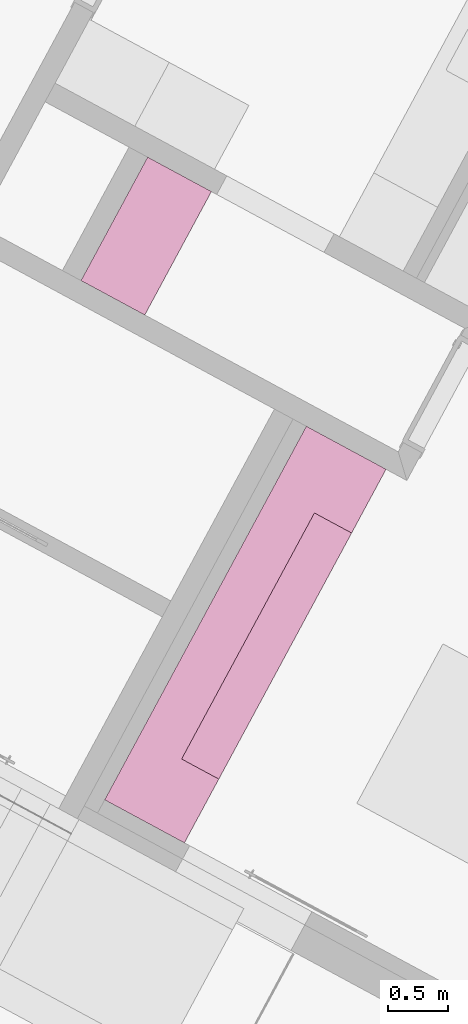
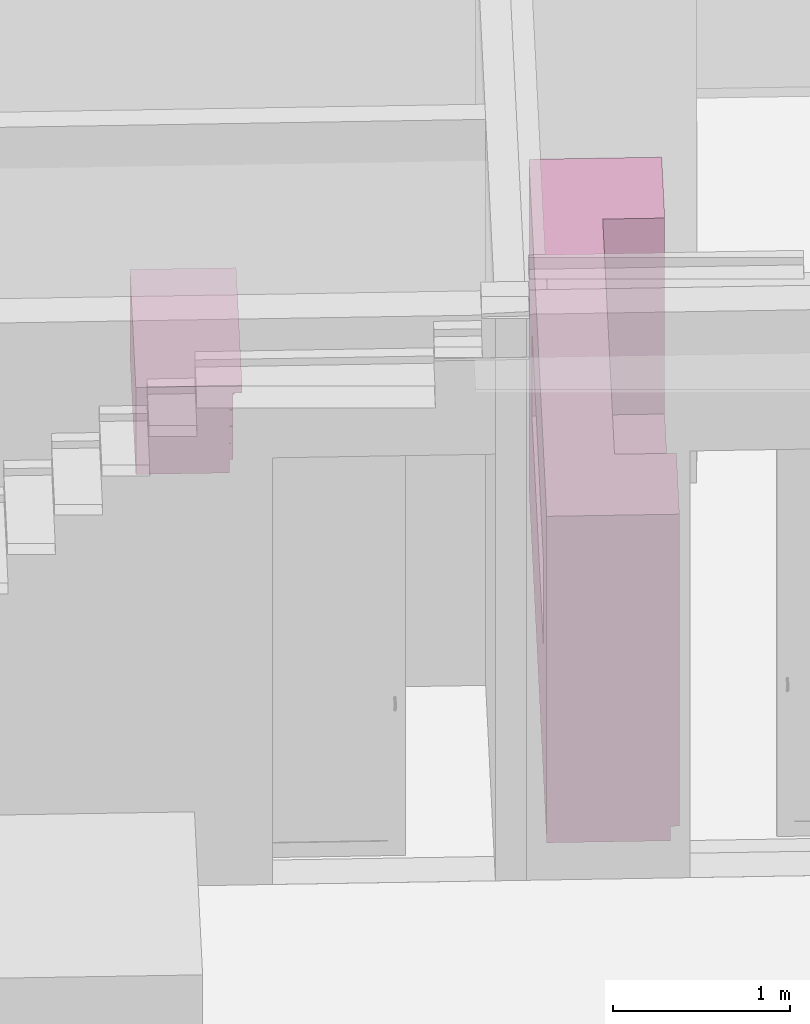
# One storey, part 33 of 36: 2 furnishings.
"""IFC2X3 building model written with IfcOpenShell, lengths in metres."""

from ifc_helpers import new_model, entity, si_unit, converted_unit, derived_unit, money_unit, direction, frame, origin_with_axes, place, context, subcontext, project, spatial, faceted_brep, type_object, element, save


model = new_model("IFC2X3")

# Units and contexts
model_context = context("Model", 3, precision=1e-05, world=origin_with_axes(), true_north=direction((0.0, 1.0)))
body_context = subcontext(model_context, "Body", "Model", "MODEL_VIEW")
ifc_project = project(units=[si_unit("LENGTHUNIT", "METRE"), si_unit("AREAUNIT", "SQUARE_METRE"), si_unit("VOLUMEUNIT", "CUBIC_METRE"), converted_unit("PLANEANGLEUNIT", "DEGREE", entity("IfcPlaneAngleMeasure", 0.0174532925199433), si_unit("PLANEANGLEUNIT", "RADIAN"), dimensions=[0, 0, 0, 0, 0, 0, 0]), money_unit("EUR"), converted_unit("TIMEUNIT", "Year", entity("IfcTimeMeasure", 31556926.0), si_unit("TIMEUNIT", "SECOND"), dimensions=[0, 0, 1, 0, 0, 0, 0]), si_unit("MASSUNIT", "GRAM", prefix="KILO"), si_unit("THERMODYNAMICTEMPERATUREUNIT", "DEGREE_CELSIUS"), si_unit("LUMINOUSINTENSITYUNIT", "LUMEN"), si_unit("ENERGYUNIT", "JOULE", prefix="MEGA"), derived_unit("THERMALCONDUCTANCEUNIT", [(si_unit("POWERUNIT", "WATT"), 1), (si_unit("LENGTHUNIT", "METRE"), -1), (si_unit("THERMODYNAMICTEMPERATUREUNIT", "KELVIN"), -1)]), derived_unit("SPECIFICHEATCAPACITYUNIT", [(si_unit("ENERGYUNIT", "JOULE"), 1), (si_unit("MASSUNIT", "GRAM", prefix="KILO"), -1), (si_unit("THERMODYNAMICTEMPERATUREUNIT", "KELVIN"), -1)]), derived_unit("MASSDENSITYUNIT", [(si_unit("MASSUNIT", "GRAM", prefix="KILO"), 1), (si_unit("VOLUMEUNIT", "CUBIC_METRE"), -1)])], contexts=[model_context])

# Site, building, storey
site_placement = place(None, frame((-3.949935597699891, 1.740105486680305, 0.0), z_axis=(0.0, 0.0, 1.0), x_axis=(0.8799804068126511, -0.475009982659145, 0.0)))
site = spatial("IfcSite", under=ifc_project, at=site_placement, Name="Gelände", CompositionType="ELEMENT")
building_placement = place(site_placement, origin_with_axes())
building = spatial("IfcBuilding", under=site, at=building_placement, Name="Gebäude", CompositionType="ELEMENT")
storey_placement = place(building_placement, origin_with_axes())
storey = spatial("IfcBuildingStorey", under=building, at=storey_placement, Name="Erdgeschoss", CompositionType="ELEMENT", Elevation=0.0)

# Furnishings
furniture_type_1 = type_object("IfcFurnitureType", Name="Konzeptküche 26", AssemblyPlace="NOTDEFINED")
furnishing_1_placement = place(storey_placement, frame((13.7174868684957, 14.09586423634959, 0.0), z_axis=(0.0, 0.0, 1.0), x_axis=(0.0, -1.0, 0.0)))
element("IfcFurnishingElement", 1, at=furnishing_1_placement, inside=storey, type_object=furniture_type_1, Name="Küche-001", ObjectType="FURNITURE", context=body_context, shape_type="Brep", body=[
    faceted_brep([(2.473029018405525, -3.067133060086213e-06, 0.1), (2.473026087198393, 0.6999969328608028, 0.1), (0.157757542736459, 0.6999872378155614, 0.1), (0.1577604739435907, -1.27621783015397e-05, 0.1), (2.473026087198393, 0.6999969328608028, 0.0), (2.473029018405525, -3.067133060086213e-06, 0.0), (0.157757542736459, 0.6999872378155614, 0.0), (0.1577604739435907, -1.27621783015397e-05, 0.0)], [[[0, 1, 2, 3]], [[4, 1, 0, 5]], [[1, 4, 6, 2]], [[2, 6, 7, 3]], [[5, 0, 3, 7]], [[4, 5, 7, 6]]]),
    faceted_brep([(2.473029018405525, -3.067133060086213e-06, 0.9), (2.473025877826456, 0.7499969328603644, 0.9), (0.1577573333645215, 0.7499872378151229, 0.9), (0.1577604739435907, -1.27621783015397e-05, 0.9), (2.473025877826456, 0.7499969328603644, 0.86), (2.473029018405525, -3.067133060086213e-06, 0.86), (0.1577573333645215, 0.7499872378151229, 0.86), (0.1577604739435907, -1.27621783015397e-05, 0.86)], [[[0, 1, 2, 3]], [[4, 1, 0, 5]], [[1, 4, 6, 2]], [[2, 6, 7, 3]], [[5, 0, 3, 7]], [[4, 5, 7, 6]]]),
    faceted_brep([(2.473029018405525, -3.067133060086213e-06, 0.86), (2.473025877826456, 0.7499969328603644, 0.86), (0.1577573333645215, 0.7499872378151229, 0.86), (0.1577604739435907, -1.27621783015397e-05, 0.86), (2.473025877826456, 0.7499969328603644, 0.09999999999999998), (2.473029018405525, -3.067133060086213e-06, 0.09999999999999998), (0.1577573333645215, 0.7499872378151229, 0.09999999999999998), (0.1577604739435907, -1.27621783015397e-05, 0.09999999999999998)], [[[0, 1, 2, 3]], [[4, 1, 0, 5]], [[1, 4, 6, 2]], [[2, 6, 7, 3]], [[5, 0, 3, 7]], [[4, 5, 7, 6]]]),
    faceted_brep([(1.773028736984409, -5.998341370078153e-06, 1.5), (2.473028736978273, -3.067134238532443e-06, 1.5), (2.473028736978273, -3.067134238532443e-06, 2.25), (1.773028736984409, -5.998341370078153e-06, 2.25), (1.773027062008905, 0.399994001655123, 1.5), (2.473027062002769, 0.3999969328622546, 1.5), (2.473027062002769, 0.3999969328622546, 2.25), (1.773027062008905, 0.399994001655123, 2.25)], [[[0, 1, 2, 3]], [[0, 4, 5, 1]], [[1, 5, 6, 2]], [[3, 2, 6, 7]], [[4, 0, 3, 7]], [[5, 4, 7, 6]]]),
    faceted_brep([(2.473028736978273, -3.067134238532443e-06, 1.5), (2.473027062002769, 0.3999969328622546, 1.5), (2.473027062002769, 0.3999969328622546, 2.25), (2.473028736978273, -3.067134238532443e-06, 2.25), (0.857760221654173, -9.830972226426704e-06, 1.5), (0.8577585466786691, 0.3999901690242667, 1.5), (0.8577585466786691, 0.3999901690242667, 2.25), (0.857760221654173, -9.830972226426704e-06, 2.25)], [[[0, 1, 2, 3]], [[0, 4, 5, 1]], [[1, 5, 6, 2]], [[3, 2, 6, 7]], [[4, 0, 3, 7]], [[5, 4, 7, 6]]]),
    faceted_brep([(0.8577602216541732, -9.830972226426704e-06, 1.5), (0.8577585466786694, 0.3999901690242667, 1.5), (0.8577585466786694, 0.3999901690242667, 2.25), (0.8577602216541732, -9.830972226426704e-06, 2.25), (0.1577602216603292, -1.276217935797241e-05, 1.5), (0.1577585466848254, 0.3999872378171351, 1.5), (0.1577585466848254, 0.3999872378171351, 2.25), (0.1577602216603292, -1.276217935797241e-05, 2.25)], [[[0, 1, 2, 3]], [[0, 4, 5, 1]], [[1, 5, 6, 2]], [[3, 2, 6, 7]], [[4, 0, 3, 7]], [[5, 4, 7, 6]]]),
    faceted_brep([(0.1577575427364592, 0.6999872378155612, 0.0), (-0.4422424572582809, 0.6999847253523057, 0.0), (-0.4422424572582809, 0.6999847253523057, 0.1), (0.1577575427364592, 0.6999872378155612, 0.1), (0.1577604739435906, -1.276217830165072e-05, 0.0), (-0.4422395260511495, -1.527464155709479e-05, 0.0), (-0.4422395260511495, -1.527464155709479e-05, 0.1), (0.1577604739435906, -1.276217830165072e-05, 0.1)], [[[0, 1, 2, 3]], [[0, 4, 5, 1]], [[1, 5, 6, 2]], [[3, 2, 6, 7]], [[4, 0, 3, 7]], [[5, 4, 7, 6]]]),
    faceted_brep([(0.1577573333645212, 0.7499872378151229, 0.1), (-0.4422426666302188, 0.7499847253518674, 0.1), (-0.4422426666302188, 0.7499847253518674, 2.25), (0.1577573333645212, 0.7499872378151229, 2.25), (0.1577604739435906, -1.276217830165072e-05, 0.1), (-0.4422395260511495, -1.527464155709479e-05, 0.1), (-0.4422395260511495, -1.527464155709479e-05, 2.25), (0.1577604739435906, -1.276217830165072e-05, 2.25)], [[[0, 1, 2, 3]], [[0, 4, 5, 1]], [[1, 5, 6, 2]], [[3, 2, 6, 7]], [[4, 0, 3, 7]], [[5, 4, 7, 6]]]),
    faceted_brep([(3.073026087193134, 0.6999994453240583, 0.0), (2.473026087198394, 0.6999969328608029, 0.0), (2.473026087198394, 0.6999969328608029, 0.1), (3.073026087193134, 0.6999994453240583, 0.1), (3.073029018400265, -5.54669804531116e-07, 0.0), (2.473029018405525, -3.067133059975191e-06, 0.0), (2.473029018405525, -3.067133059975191e-06, 0.1), (3.073029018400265, -5.54669804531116e-07, 0.1)], [[[0, 1, 2, 3]], [[0, 4, 5, 1]], [[1, 5, 6, 2]], [[3, 2, 6, 7]], [[4, 0, 3, 7]], [[5, 4, 7, 6]]]),
    faceted_brep([(3.073025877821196, 0.74999944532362, 0.1), (2.473025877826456, 0.7499969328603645, 0.1), (2.473025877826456, 0.7499969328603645, 2.25), (3.073025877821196, 0.74999944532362, 2.25), (3.073029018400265, -5.54669804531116e-07, 0.1), (2.473029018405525, -3.067133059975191e-06, 0.1), (2.473029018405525, -3.067133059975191e-06, 2.25), (3.073029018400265, -5.54669804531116e-07, 2.25)], [[[0, 1, 2, 3]], [[0, 4, 5, 1]], [[1, 5, 6, 2]], [[3, 2, 6, 7]], [[4, 0, 3, 7]], [[5, 4, 7, 6]]]),
])
furniture_type_2 = type_object("IfcFurnitureType", Name="Unterschrank Mehrfach-Schublade 22", AssemblyPlace="NOTDEFINED")
furnishing_2_placement = place(storey_placement, frame((12.10273523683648, 15.87469599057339, 0.0), z_axis=(0.0, 0.0, 1.0), x_axis=(0.0, 1.0, 0.0)))
element("IfcFurnishingElement", 2, at=furnishing_2_placement, inside=storey, type_object=furniture_type_2, Name="Objekt-0064", ObjectType="FURNITURE", context=body_context, shape_type="Brep", body=[
    faceted_brep([(-0.001499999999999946, 0.07, 0.0915), (-0.001499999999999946, 0.05, 0.0915), (-1.160101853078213, 0.05, 0.0915), (-1.160101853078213, 0.07, 0.0915), (-0.001499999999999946, 0.07, 0.2035), (-0.001499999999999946, 0.05000000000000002, 0.2035), (-1.160101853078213, 0.05000000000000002, 0.2035), (-1.160101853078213, 0.07, 0.2035)], [[[0, 1, 2, 3]], [[4, 5, 1, 0]], [[1, 5, 6, 2]], [[3, 2, 6, 7]], [[0, 3, 7, 4]], [[7, 6, 5, 4]]]),
    faceted_brep([(-0.5762087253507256, 0.05, 0.1364134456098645), (-0.5808009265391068, 0.05, 0.1355), (-0.5853931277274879, 0.05, 0.1364134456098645), (-0.5892862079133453, 0.05, 0.1390147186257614), (-0.5918874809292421, 0.05, 0.1429077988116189), (-0.5928009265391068, 0.05, 0.1475), (-0.5918874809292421, 0.05, 0.1520922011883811), (-0.5892862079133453, 0.05, 0.1559852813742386), (-0.5853931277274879, 0.05, 0.1585865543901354), (-0.5808009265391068, 0.05, 0.1595), (-0.5762087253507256, 0.05, 0.1585865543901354), (-0.5723156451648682, 0.05, 0.1559852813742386), (-0.5697143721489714, 0.05, 0.1520922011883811), (-0.5688009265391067, 0.05, 0.1475), (-0.5697143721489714, 0.05, 0.1429077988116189), (-0.5723156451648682, 0.05, 0.1390147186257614), (-0.5762087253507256, 0.025, 0.1364134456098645), (-0.5808009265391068, 0.025, 0.1355), (-0.5853931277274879, 0.025, 0.1364134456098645), (-0.5892862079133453, 0.025, 0.1390147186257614), (-0.5918874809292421, 0.025, 0.1429077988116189), (-0.5928009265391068, 0.025, 0.1475), (-0.5918874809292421, 0.025, 0.1520922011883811), (-0.5892862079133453, 0.025, 0.1559852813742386), (-0.5853931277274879, 0.025, 0.1585865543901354), (-0.5808009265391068, 0.025, 0.1595), (-0.5762087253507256, 0.025, 0.1585865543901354), (-0.5723156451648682, 0.025, 0.1559852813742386), (-0.5697143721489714, 0.025, 0.1520922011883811), (-0.5688009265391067, 0.025, 0.1475), (-0.5697143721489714, 0.025, 0.1429077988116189), (-0.5723156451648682, 0.025, 0.1390147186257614)], [[[0, 1, 2, 3, 4, 5, 6, 7, 8, 9, 10, 11, 12, 13, 14, 15]], [[0, 16, 17, 1]], [[1, 17, 18, 2]], [[2, 18, 19, 3]], [[3, 19, 20, 4]], [[4, 20, 21, 5]], [[5, 21, 22, 6]], [[6, 22, 23, 7]], [[7, 23, 24, 8]], [[8, 24, 25, 9]], [[9, 25, 26, 10]], [[10, 26, 27, 11]], [[11, 27, 28, 12]], [[12, 28, 29, 13]], [[13, 29, 30, 14]], [[14, 30, 31, 15]], [[15, 31, 16, 0]], [[16, 31, 30, 29, 28, 27, 26, 25, 24, 23, 22, 21, 20, 19, 18, 17]]]),
    faceted_brep([(-0.001499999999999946, 0.07, 0.2065), (-0.001499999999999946, 0.05, 0.2065), (-1.160101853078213, 0.05, 0.2065), (-1.160101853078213, 0.07, 0.2065), (-0.001499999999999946, 0.07, 0.3185), (-0.001499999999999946, 0.05000000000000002, 0.3185), (-1.160101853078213, 0.05000000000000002, 0.3185), (-1.160101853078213, 0.07, 0.3185)], [[[0, 1, 2, 3]], [[4, 5, 1, 0]], [[1, 5, 6, 2]], [[3, 2, 6, 7]], [[0, 3, 7, 4]], [[7, 6, 5, 4]]]),
    faceted_brep([(-0.5762087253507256, 0.05, 0.2514134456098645), (-0.5808009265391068, 0.05, 0.2504999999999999), (-0.5853931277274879, 0.05, 0.2514134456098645), (-0.5892862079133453, 0.05, 0.2540147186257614), (-0.5918874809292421, 0.05, 0.2579077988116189), (-0.5928009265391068, 0.05, 0.2625), (-0.5918874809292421, 0.05, 0.2670922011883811), (-0.5892862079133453, 0.05, 0.2709852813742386), (-0.5853931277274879, 0.05, 0.2735865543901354), (-0.5808009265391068, 0.05, 0.2745), (-0.5762087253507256, 0.05, 0.2735865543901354), (-0.5723156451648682, 0.05, 0.2709852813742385), (-0.5697143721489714, 0.05, 0.267092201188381), (-0.5688009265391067, 0.05, 0.2625), (-0.5697143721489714, 0.05, 0.2579077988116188), (-0.5723156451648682, 0.05, 0.2540147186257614), (-0.5762087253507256, 0.025, 0.2514134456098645), (-0.5808009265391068, 0.025, 0.2504999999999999), (-0.5853931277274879, 0.025, 0.2514134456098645), (-0.5892862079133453, 0.025, 0.2540147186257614), (-0.5918874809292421, 0.025, 0.2579077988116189), (-0.5928009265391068, 0.025, 0.2625), (-0.5918874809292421, 0.025, 0.2670922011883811), (-0.5892862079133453, 0.025, 0.2709852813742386), (-0.5853931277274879, 0.025, 0.2735865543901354), (-0.5808009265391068, 0.025, 0.2745), (-0.5762087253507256, 0.025, 0.2735865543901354), (-0.5723156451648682, 0.025, 0.2709852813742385), (-0.5697143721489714, 0.025, 0.267092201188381), (-0.5688009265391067, 0.025, 0.2625), (-0.5697143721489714, 0.025, 0.2579077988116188), (-0.5723156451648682, 0.025, 0.2540147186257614)], [[[0, 1, 2, 3, 4, 5, 6, 7, 8, 9, 10, 11, 12, 13, 14, 15]], [[0, 16, 17, 1]], [[1, 17, 18, 2]], [[2, 18, 19, 3]], [[3, 19, 20, 4]], [[4, 20, 21, 5]], [[5, 21, 22, 6]], [[6, 22, 23, 7]], [[7, 23, 24, 8]], [[8, 24, 25, 9]], [[9, 25, 26, 10]], [[10, 26, 27, 11]], [[11, 27, 28, 12]], [[12, 28, 29, 13]], [[13, 29, 30, 14]], [[14, 30, 31, 15]], [[15, 31, 16, 0]], [[16, 31, 30, 29, 28, 27, 26, 25, 24, 23, 22, 21, 20, 19, 18, 17]]]),
    faceted_brep([(-0.02, 0.07, 0.205), (-0.02, 0.07, 0.225), (-1.141601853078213, 0.07, 0.225), (-1.141601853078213, 0.07, 0.205), (-0.02, 0.5799999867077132, 0.205), (-0.02, 0.5799999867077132, 0.225), (-1.141601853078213, 0.5799999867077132, 0.225), (-1.141601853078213, 0.5799999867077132, 0.205)], [[[0, 1, 2, 3]], [[4, 5, 1, 0]], [[1, 5, 6, 2]], [[3, 2, 6, 7]], [[0, 3, 7, 4]], [[7, 6, 5, 4]]]),
    faceted_brep([(-0.001499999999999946, 0.07, 0.3215), (-0.001499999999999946, 0.05, 0.3215), (-1.160101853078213, 0.05, 0.3215), (-1.160101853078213, 0.07, 0.3215), (-0.001499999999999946, 0.07, 0.4334999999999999), (-0.001499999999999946, 0.05000000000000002, 0.4334999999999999), (-1.160101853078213, 0.05000000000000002, 0.4334999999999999), (-1.160101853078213, 0.07, 0.4334999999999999)], [[[0, 1, 2, 3]], [[4, 5, 1, 0]], [[1, 5, 6, 2]], [[3, 2, 6, 7]], [[0, 3, 7, 4]], [[7, 6, 5, 4]]]),
    faceted_brep([(-0.5762087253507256, 0.05, 0.3664134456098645), (-0.5808009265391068, 0.05, 0.3654999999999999), (-0.5853931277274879, 0.05, 0.3664134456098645), (-0.5892862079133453, 0.05, 0.3690147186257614), (-0.5918874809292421, 0.05, 0.3729077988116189), (-0.5928009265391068, 0.05, 0.3774999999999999), (-0.5918874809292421, 0.05, 0.3820922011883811), (-0.5892862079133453, 0.05, 0.3859852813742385), (-0.5853931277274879, 0.05, 0.3885865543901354), (-0.5808009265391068, 0.05, 0.3895), (-0.5762087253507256, 0.05, 0.3885865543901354), (-0.5723156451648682, 0.05, 0.3859852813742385), (-0.5697143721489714, 0.05, 0.382092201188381), (-0.5688009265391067, 0.05, 0.3774999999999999), (-0.5697143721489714, 0.05, 0.3729077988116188), (-0.5723156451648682, 0.05, 0.3690147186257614), (-0.5762087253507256, 0.025, 0.3664134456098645), (-0.5808009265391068, 0.025, 0.3654999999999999), (-0.5853931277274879, 0.025, 0.3664134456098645), (-0.5892862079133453, 0.025, 0.3690147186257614), (-0.5918874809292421, 0.025, 0.3729077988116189), (-0.5928009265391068, 0.025, 0.3774999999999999), (-0.5918874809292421, 0.025, 0.3820922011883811), (-0.5892862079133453, 0.025, 0.3859852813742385), (-0.5853931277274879, 0.025, 0.3885865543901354), (-0.5808009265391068, 0.025, 0.3895), (-0.5762087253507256, 0.025, 0.3885865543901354), (-0.5723156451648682, 0.025, 0.3859852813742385), (-0.5697143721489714, 0.025, 0.382092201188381), (-0.5688009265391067, 0.025, 0.3774999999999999), (-0.5697143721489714, 0.025, 0.3729077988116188), (-0.5723156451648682, 0.025, 0.3690147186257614)], [[[0, 1, 2, 3, 4, 5, 6, 7, 8, 9, 10, 11, 12, 13, 14, 15]], [[0, 16, 17, 1]], [[1, 17, 18, 2]], [[2, 18, 19, 3]], [[3, 19, 20, 4]], [[4, 20, 21, 5]], [[5, 21, 22, 6]], [[6, 22, 23, 7]], [[7, 23, 24, 8]], [[8, 24, 25, 9]], [[9, 25, 26, 10]], [[10, 26, 27, 11]], [[11, 27, 28, 12]], [[12, 28, 29, 13]], [[13, 29, 30, 14]], [[14, 30, 31, 15]], [[15, 31, 16, 0]], [[16, 31, 30, 29, 28, 27, 26, 25, 24, 23, 22, 21, 20, 19, 18, 17]]]),
    faceted_brep([(-0.02, 0.07, 0.32), (-0.02, 0.07, 0.34), (-1.141601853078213, 0.07, 0.34), (-1.141601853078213, 0.07, 0.32), (-0.02, 0.5799999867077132, 0.32), (-0.02, 0.5799999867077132, 0.34), (-1.141601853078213, 0.5799999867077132, 0.34), (-1.141601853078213, 0.5799999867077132, 0.32)], [[[0, 1, 2, 3]], [[4, 5, 1, 0]], [[1, 5, 6, 2]], [[3, 2, 6, 7]], [[0, 3, 7, 4]], [[7, 6, 5, 4]]]),
    faceted_brep([(-0.001499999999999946, 0.07, 0.4364999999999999), (-0.001499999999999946, 0.05, 0.4364999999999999), (-1.160101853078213, 0.05, 0.4364999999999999), (-1.160101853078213, 0.07, 0.4364999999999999), (-0.001499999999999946, 0.07, 0.5485), (-0.001499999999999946, 0.05000000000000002, 0.5485), (-1.160101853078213, 0.05000000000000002, 0.5485), (-1.160101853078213, 0.07, 0.5485)], [[[0, 1, 2, 3]], [[4, 5, 1, 0]], [[1, 5, 6, 2]], [[3, 2, 6, 7]], [[0, 3, 7, 4]], [[7, 6, 5, 4]]]),
    faceted_brep([(-0.5762087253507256, 0.05, 0.4814134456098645), (-0.5808009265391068, 0.05, 0.4804999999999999), (-0.5853931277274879, 0.05, 0.4814134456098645), (-0.5892862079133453, 0.05, 0.4840147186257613), (-0.5918874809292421, 0.05, 0.4879077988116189), (-0.5928009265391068, 0.05, 0.4924999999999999), (-0.5918874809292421, 0.05, 0.497092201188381), (-0.5892862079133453, 0.05, 0.5009852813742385), (-0.5853931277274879, 0.05, 0.5035865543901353), (-0.5808009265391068, 0.05, 0.5045), (-0.5762087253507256, 0.05, 0.5035865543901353), (-0.5723156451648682, 0.05, 0.5009852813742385), (-0.5697143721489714, 0.05, 0.497092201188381), (-0.5688009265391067, 0.05, 0.4924999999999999), (-0.5697143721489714, 0.05, 0.4879077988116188), (-0.5723156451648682, 0.05, 0.4840147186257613), (-0.5762087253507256, 0.025, 0.4814134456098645), (-0.5808009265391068, 0.025, 0.4804999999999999), (-0.5853931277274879, 0.025, 0.4814134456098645), (-0.5892862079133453, 0.025, 0.4840147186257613), (-0.5918874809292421, 0.025, 0.4879077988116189), (-0.5928009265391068, 0.025, 0.4924999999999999), (-0.5918874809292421, 0.025, 0.497092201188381), (-0.5892862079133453, 0.025, 0.5009852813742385), (-0.5853931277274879, 0.025, 0.5035865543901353), (-0.5808009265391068, 0.025, 0.5045), (-0.5762087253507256, 0.025, 0.5035865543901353), (-0.5723156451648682, 0.025, 0.5009852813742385), (-0.5697143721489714, 0.025, 0.497092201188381), (-0.5688009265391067, 0.025, 0.4924999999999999), (-0.5697143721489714, 0.025, 0.4879077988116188), (-0.5723156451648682, 0.025, 0.4840147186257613)], [[[0, 1, 2, 3, 4, 5, 6, 7, 8, 9, 10, 11, 12, 13, 14, 15]], [[0, 16, 17, 1]], [[1, 17, 18, 2]], [[2, 18, 19, 3]], [[3, 19, 20, 4]], [[4, 20, 21, 5]], [[5, 21, 22, 6]], [[6, 22, 23, 7]], [[7, 23, 24, 8]], [[8, 24, 25, 9]], [[9, 25, 26, 10]], [[10, 26, 27, 11]], [[11, 27, 28, 12]], [[12, 28, 29, 13]], [[13, 29, 30, 14]], [[14, 30, 31, 15]], [[15, 31, 16, 0]], [[16, 31, 30, 29, 28, 27, 26, 25, 24, 23, 22, 21, 20, 19, 18, 17]]]),
    faceted_brep([(-0.02, 0.07, 0.4349999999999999), (-0.02, 0.07, 0.455), (-1.141601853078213, 0.07, 0.455), (-1.141601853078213, 0.07, 0.4349999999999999), (-0.02, 0.5799999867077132, 0.4349999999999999), (-0.02, 0.5799999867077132, 0.455), (-1.141601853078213, 0.5799999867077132, 0.455), (-1.141601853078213, 0.5799999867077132, 0.4349999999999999)], [[[0, 1, 2, 3]], [[4, 5, 1, 0]], [[1, 5, 6, 2]], [[3, 2, 6, 7]], [[0, 3, 7, 4]], [[7, 6, 5, 4]]]),
    faceted_brep([(0.0, 0.07, 0.0), (0.0, 0.07, 0.09), (-1.161601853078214, 0.07, 0.09), (-1.161601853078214, 0.07, 0.0), (0.0, 0.5999999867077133, 0.0), (0.0, 0.5999999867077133, 0.09), (-1.161601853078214, 0.5999999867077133, 0.09), (-1.161601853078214, 0.5999999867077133, 0.0)], [[[0, 1, 2, 3]], [[4, 5, 1, 0]], [[1, 5, 6, 2]], [[3, 2, 6, 7]], [[0, 3, 7, 4]], [[7, 6, 5, 4]]]),
    faceted_brep([(0.0, 0.07, 0.5299999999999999), (0.0, 0.07, 0.5499999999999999), (-0.02, 0.07, 0.5499999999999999), (-0.02, 0.07, 0.5299999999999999), (0.0, 0.5999999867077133, 0.5299999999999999), (0.0, 0.5999999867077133, 0.5499999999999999), (-0.02, 0.5999999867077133, 0.5499999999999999), (-1.141601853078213, 0.5999999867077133, 0.5499999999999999), (-1.161601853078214, 0.5999999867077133, 0.5499999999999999), (-1.161601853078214, 0.07, 0.5499999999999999), (-1.141601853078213, 0.07, 0.5499999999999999), (-1.141601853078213, 0.07, 0.5299999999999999), (-1.161601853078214, 0.07, 0.5299999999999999), (-1.161601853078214, 0.5999999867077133, 0.5299999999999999), (-1.141601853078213, 0.5999999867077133, 0.5299999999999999), (-0.02, 0.5999999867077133, 0.5299999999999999)], [[[0, 1, 2, 3]], [[4, 5, 1, 0]], [[1, 5, 6, 7, 8, 9, 10, 2]], [[3, 2, 10, 11]], [[0, 3, 11, 12, 13, 14, 15, 4]], [[15, 6, 5, 4]], [[14, 7, 6, 15]], [[13, 8, 7, 14]], [[12, 9, 8, 13]], [[11, 10, 9, 12]]]),
    faceted_brep([(0.0, 0.07, 0.09), (0.0, 0.07, 0.11), (-0.02, 0.07, 0.11), (-0.02, 0.07, 0.09), (0.0, 0.5999999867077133, 0.09), (0.0, 0.5999999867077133, 0.11), (-0.02, 0.5999999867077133, 0.11), (-1.141601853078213, 0.5999999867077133, 0.11), (-1.161601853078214, 0.5999999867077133, 0.11), (-1.161601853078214, 0.07, 0.11), (-1.141601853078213, 0.07, 0.11), (-1.141601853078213, 0.07, 0.09), (-1.161601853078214, 0.07, 0.09), (-1.161601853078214, 0.5999999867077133, 0.09), (-1.141601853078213, 0.5999999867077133, 0.09), (-0.02, 0.5999999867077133, 0.09)], [[[0, 1, 2, 3]], [[4, 5, 1, 0]], [[1, 5, 6, 7, 8, 9, 10, 2]], [[3, 2, 10, 11]], [[0, 3, 11, 12, 13, 14, 15, 4]], [[15, 6, 5, 4]], [[14, 7, 6, 15]], [[13, 8, 7, 14]], [[12, 9, 8, 13]], [[11, 10, 9, 12]]]),
    faceted_brep([(0.0, 0.07, 0.11), (0.0, 0.07, 0.53), (-0.02, 0.07, 0.53), (-0.02, 0.07, 0.11), (0.0, 0.5999999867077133, 0.11), (0.0, 0.5999999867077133, 0.53), (-1.161601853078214, 0.5999999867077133, 0.53), (-1.161601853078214, 0.07, 0.53), (-1.141601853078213, 0.07, 0.53), (-1.141601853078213, 0.5799999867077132, 0.53), (-0.02, 0.5799999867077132, 0.53), (-0.02, 0.5799999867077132, 0.11), (-1.141601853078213, 0.5799999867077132, 0.11), (-1.141601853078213, 0.07, 0.11), (-1.161601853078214, 0.07, 0.11), (-1.161601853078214, 0.5999999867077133, 0.11)], [[[0, 1, 2, 3]], [[4, 5, 1, 0]], [[1, 5, 6, 7, 8, 9, 10, 2]], [[3, 2, 10, 11]], [[0, 3, 11, 12, 13, 14, 15, 4]], [[15, 6, 5, 4]], [[14, 7, 6, 15]], [[13, 8, 7, 14]], [[12, 9, 8, 13]], [[11, 10, 9, 12]]]),
    faceted_brep([(0.0, 0.0, 0.5499999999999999), (0.0, 0.0, 0.6), (-1.161601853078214, 0.0, 0.6), (-1.161601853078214, 0.0, 0.5499999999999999), (0.0, 0.5999999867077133, 0.5499999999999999), (0.0, 0.5999999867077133, 0.6), (-1.161601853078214, 0.5999999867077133, 0.6), (-1.161601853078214, 0.5999999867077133, 0.5499999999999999)], [[[0, 1, 2, 3]], [[4, 5, 1, 0]], [[1, 5, 6, 2]], [[3, 2, 6, 7]], [[0, 3, 7, 4]], [[7, 6, 5, 4]]]),
])

save(model, "model.ifc")
